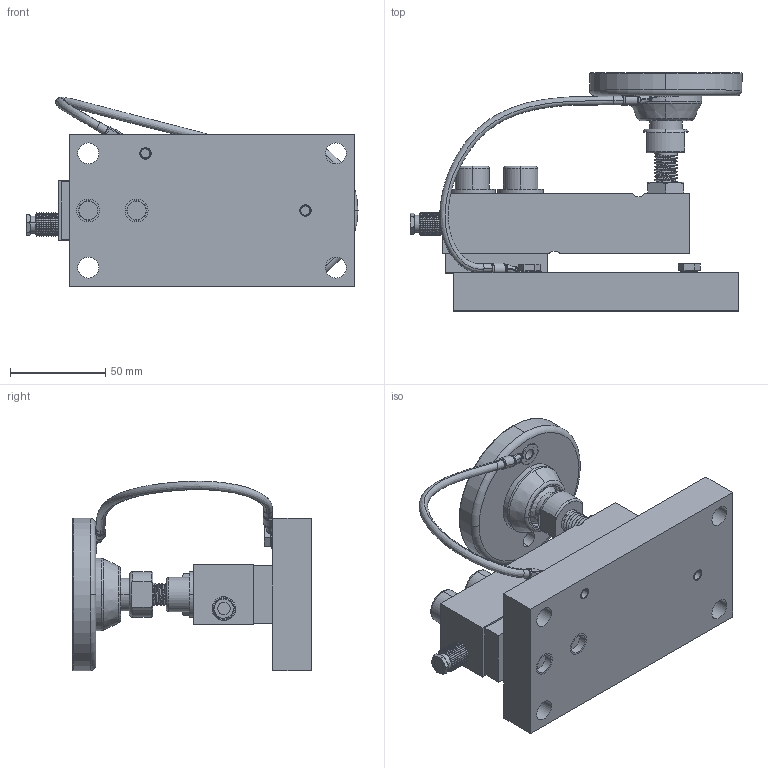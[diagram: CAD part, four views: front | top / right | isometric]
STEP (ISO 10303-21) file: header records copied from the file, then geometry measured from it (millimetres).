
FILE_DESCRIPTION((''),'1');
FILE_NAME('LMLAR.step','2023-05-08T14:41:25',(''),(''),'','','');
FILE_SCHEMA(('AUTOMOTIVE_DESIGN { 1 0 10303 214 1 1 1 1 }'));
Products named in the file (18): LMLAR part 01; LMLAR part 03; LMLAR part 05; LMLAR part 06; LMLAR O-ring 01; LMLAR part 07; LMLAR connector 01; LMLAR; LMLAR part 08; LMLAR screw 01; LMLAR screw 02; LMLAR nut 01; LMLAR screw 03; LMLAR load cell 01; LMLAR part 09; LMLAR screw 04; LMLAR part 10
Assembly tree (19 placements, depth 4):
  LMLAR
    LMLAR connector 01
      LMLAR part 01
        LMLAR part 03
        LMLAR part 05
        LMLAR part 06
        LMLAR O-ring 01
        LMLAR part 07
    LMLAR part 08
    LMLAR
    LMLAR screw 01
    LMLAR screw 02  x2
    LMLAR nut 01
    LMLAR screw 03  x2
    LMLAR load cell 01
    LMLAR part 09
    LMLAR screw 04
    LMLAR part 10
Bounding box: 174.28 x 125 x 99.45 mm (x, y, z)
Volume: 463563.1 mm3; surface area: 107261.1 mm2
Topology: 16 solids, 23 shells, 740 faces, 1815 edges, 1124 vertices
Faces by surface type: cylinder 250, plane 188, cone 147, bspline 77, torus 76, sphere 2
Entity records: 247534 total; most frequent: CARTESIAN_POINT 230828, DIRECTION 3398, ORIENTED_EDGE 3376, EDGE_CURVE 1696, AXIS2_PLACEMENT_3D 1388, VERTEX_POINT 1061, EDGE_LOOP 761, CIRCLE 736
